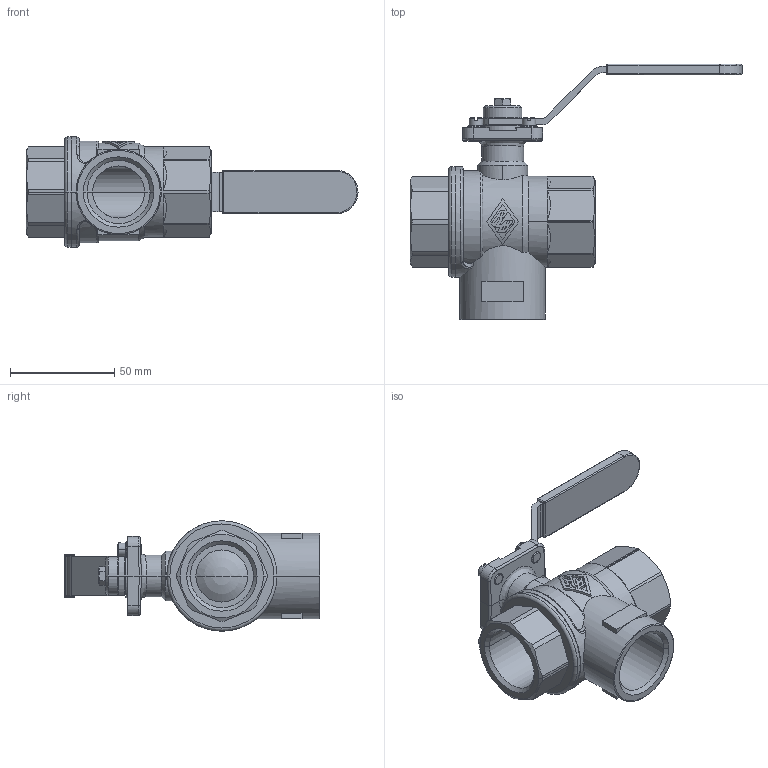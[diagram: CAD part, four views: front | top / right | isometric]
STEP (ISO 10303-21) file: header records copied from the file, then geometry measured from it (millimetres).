
FILE_DESCRIPTION(('CoCreate Modeling STEP Export'),'2;1');
FILE_NAME('3210060000.stp','2010-11-25T11:31:02',(''),(''),'CoCreate Modeling STEP processor for AP214 (Solid Model)','CoCreate Modeling 16.00D 29-May-2009 (C) Parametric Technology GmbH','');
FILE_SCHEMA(('AUTOMOTIVE_DESIGN { 1 0 10303 214 1 1 1 1 }'));
Length unit declared in the file: millimetre
Products named in the file (2): 3210060000
Assembly tree (1 placements, depth 2):
  3210060000
    3210060000
Bounding box: 159.5 x 122.7 x 53 mm (x, y, z)
Volume: 127980.3 mm3; surface area: 41105.8 mm2
Topology: 1 solids, 1 shells, 417 faces, 1094 edges, 698 vertices
Faces by surface type: plane 179, cylinder 151, cone 58, bspline 13, torus 8, sphere 6, extrusion 2
Entity records: 21557 total; most frequent: CARTESIAN_POINT 11520, ORIENTED_EDGE 2172, DIRECTION 1485, EDGE_CURVE 1086, VERTEX_POINT 698, VECTOR 535, LINE 533, AXIS2_PLACEMENT_3D 475
